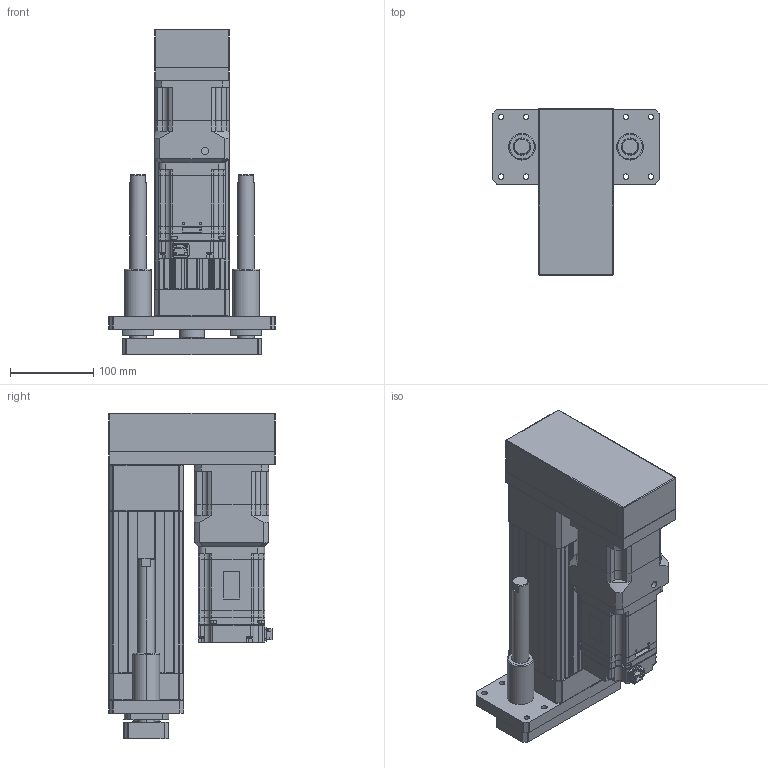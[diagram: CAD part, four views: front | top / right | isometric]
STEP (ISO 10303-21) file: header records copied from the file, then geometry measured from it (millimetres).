
FILE_DESCRIPTION (( 'STEP AP203' ), '1' );
FILE_NAME ('ANS090H-GP050-05(10)(25)-W75G05.STEP', '2019-03-18T02:11:31', ( 'user' ), ( '' ), 'SwSTEP 2.0', 'SolidWorks 2013', '' );
FILE_SCHEMA (( 'CONFIG_CONTROL_DESIGN' ));
Length unit declared in the file: millimetre
Products named in the file (5): AB090-005-S1-P2[YASKAWA SGMJV08A]; ANS090H-GP050-05(10)(25)-W75G05; ANS090H GP050 VER2; ANS090 ROD ST050-G; SGMJV_08A_A21
Assembly tree (4 placements, depth 2):
  ANS090H-GP050-05(10)(25)-W75G05
    ANS090H GP050 VER2
    ANS090 ROD ST050-G
    SGMJV_08A_A21
    AB090-005-S1-P2[YASKAWA SGMJV08A]
Bounding box: 200 x 200 x 392 mm (x, y, z)
Volume: 2996772.5 mm3; surface area: 592808.2 mm2
Topology: 3 solids, 14 shells, 1545 faces, 4030 edges, 2588 vertices
Faces by surface type: plane 828, cylinder 529, cone 164, bspline 12, sphere 8, torus 4
Entity records: 48188 total; most frequent: CARTESIAN_POINT 9040, DIRECTION 8191, ORIENTED_EDGE 7932, EDGE_CURVE 4010, AXIS2_PLACEMENT_3D 2779, LINE 2633, VECTOR 2633, VERTEX_POINT 2588
